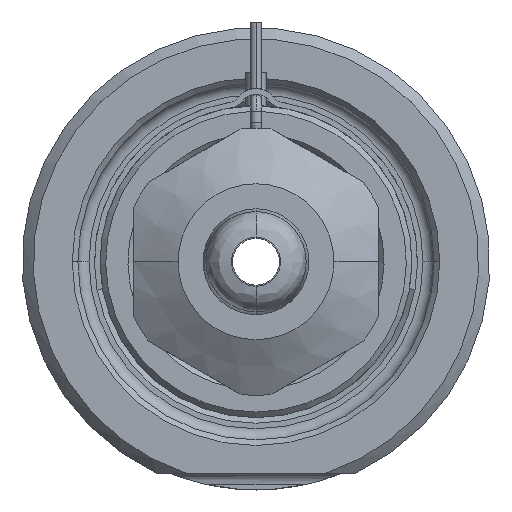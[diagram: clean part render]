
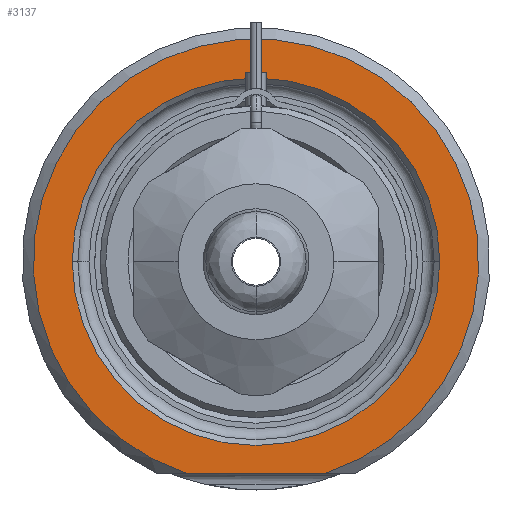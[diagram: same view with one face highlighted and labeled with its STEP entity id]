
A CAD part, front view. The second image highlights one B-rep face of the part: STEP entity #3137.
In plain terms, the highlighted planar face has unit normal (0, -1, 0).
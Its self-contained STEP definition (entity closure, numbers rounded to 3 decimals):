
#1=DIRECTION('',(1.,0.,0.));
#2=VECTOR('',#1,12.49);
#3=CARTESIAN_POINT('',(-6.245,0.,-19.));
#4=LINE('',#3,#2);
#5=CARTESIAN_POINT('',(0.,0.,0.));
#6=DIRECTION('',(0.,1.,0.));
#7=DIRECTION('',(-1.,0.,0.));
#8=AXIS2_PLACEMENT_3D('',#5,#6,#7);
#10=CARTESIAN_POINT('',(0.,0.,0.));
#11=DIRECTION('',(0.,1.,0.));
#12=DIRECTION('',(1.,0.,0.));
#13=AXIS2_PLACEMENT_3D('',#10,#11,#12);
#119=CARTESIAN_POINT('',(0.,0.,0.));
#120=DIRECTION('',(0.,-1.,0.));
#121=DIRECTION('',(0.312,0.,-0.95));
#122=AXIS2_PLACEMENT_3D('',#119,#120,#121);
#2612=CARTESIAN_POINT('',(-16.5,0.,0.));
#2613=CARTESIAN_POINT('',(16.5,0.,0.));
#2614=VERTEX_POINT('',#2612);
#2615=VERTEX_POINT('',#2613);
#2652=CARTESIAN_POINT('',(-6.245,0.,-19.));
#2653=CARTESIAN_POINT('',(6.245,0.,-19.));
#2654=VERTEX_POINT('',#2652);
#2655=VERTEX_POINT('',#2653);
#3120=CARTESIAN_POINT('',(0.,0.,0.));
#3121=DIRECTION('',(0.,-1.,0.));
#3122=DIRECTION('',(1.,0.,0.));
#3123=AXIS2_PLACEMENT_3D('',#3120,#3121,#3122);
#3124=PLANE('',#3123);
#3126=ORIENTED_EDGE('',*,*,#3125,.F.);
#3128=ORIENTED_EDGE('',*,*,#3127,.F.);
#3129=EDGE_LOOP('',(#3126,#3128));
#3130=FACE_OUTER_BOUND('',#3129,.F.);
#3132=ORIENTED_EDGE('',*,*,#3131,.F.);
#3134=ORIENTED_EDGE('',*,*,#3133,.F.);
#3135=EDGE_LOOP('',(#3132,#3134));
#3136=FACE_BOUND('',#3135,.F.);
#3137=ADVANCED_FACE('',(#3130,#3136),#3124,.T.);
#9=CIRCLE('',#8,16.5);
#14=CIRCLE('',#13,16.5);
#123=CIRCLE('',#122,20.);
#3125=EDGE_CURVE('',#2654,#2655,#4,.T.);
#3127=EDGE_CURVE('',#2655,#2654,#123,.T.);
#3131=EDGE_CURVE('',#2614,#2615,#9,.T.);
#3133=EDGE_CURVE('',#2615,#2614,#14,.T.);
